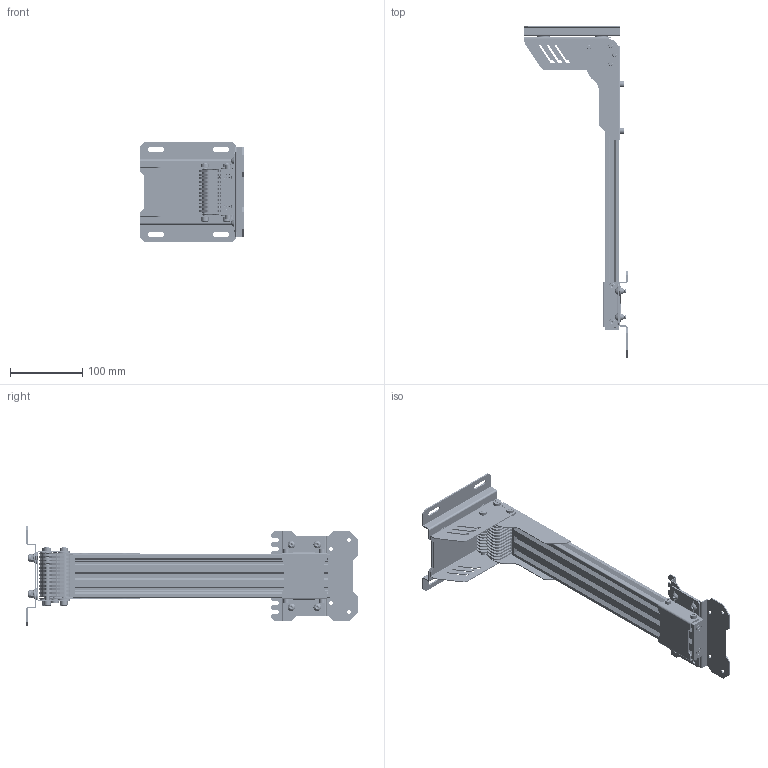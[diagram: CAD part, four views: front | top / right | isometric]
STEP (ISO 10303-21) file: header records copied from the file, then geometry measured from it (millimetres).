
FILE_DESCRIPTION (( 'STEP AP214' ), '1' );
FILE_NAME ('CTM-1.STEP', '2019-08-17T00:33:58', ( '' ), ( '' ), 'SwSTEP 2.0', 'SolidWorks 2013', '' );
FILE_SCHEMA (( 'AUTOMOTIVE_DESIGN' ));
Length unit declared in the file: millimetre
Products named in the file (20): 滅迕猾啣; 倰第蛌諉璃; 狶磁え; countersunk flat head cross recess screw_iso_ISO 7046-1 - M5 x 20 - Z --- 20S; CTM-1; M6蹟佪萵掛; 賑輸蹟譫; 三角咬合片; M6x65圉挴蹟邡; torque nut 04-2_iso_ISO 7043-M6-N; 200醱啣; 60x20; plain washer 10669 type nl_iso_ISO 10669-7.15-N; 圮倛標踡え; socket head cap screw_iso_ISO 4762 M5 x 8 --- 8S; plain washer large grade ac_iso_Washer ISO 7093 - 6; ш倰裂階Х啣; 軝筵苺啣; 唅蛌璃; M6x80圉挴蹟邡
Assembly tree (69 placements, depth 2):
  CTM-1
    60x20
    倰第蛌諉璃
    ш倰裂階Х啣
    plain washer large grade ac_iso_Washer ISO 7093 - 6  x4
    軝筵苺啣
    200醱啣
    M6蹟佪萵掛  x4
    狶磁え
    賑輸蹟譫  x4
    socket head cap screw_iso_ISO 4762 M5 x 8 --- 8S  x8
    滅迕猾啣  x2
    countersunk flat head cross recess screw_iso_ISO 7046-1 - M5 x 20 - Z --- 20S  x4
    唅蛌璃
    圮倛標踡え  x12
    三角咬合片  x12
    M6x80圉挴蹟邡  x3
    plain washer 10669 type nl_iso_ISO 10669-7.15-N  x4
    torque nut 04-2_iso_ISO 7043-M6-N  x4
    M6x65圉挴蹟邡
Bounding box: 143 x 460.6 x 138 mm (x, y, z)
Volume: 379642.1 mm3; surface area: 425440.3 mm2
Topology: 80 solids, 80 shells, 3762 faces, 9118 edges, 5516 vertices
Faces by surface type: cylinder 1317, cone 1272, plane 1065, torus 80, bspline 28
Entity records: 46430 total; most frequent: DIRECTION 8260, CARTESIAN_POINT 7977, ORIENTED_EDGE 7452, EDGE_CURVE 3726, AXIS2_PLACEMENT_3D 2984, VECTOR 2292, LINE 2292, VERTEX_POINT 2263
